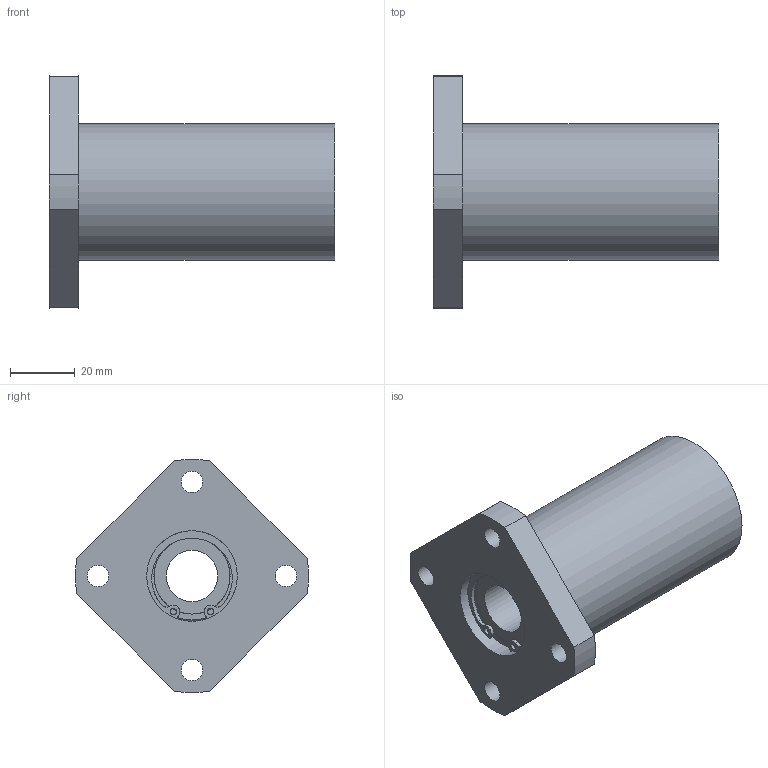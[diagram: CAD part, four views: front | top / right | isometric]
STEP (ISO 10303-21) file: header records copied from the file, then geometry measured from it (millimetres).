
FILE_DESCRIPTION((''),'2;1');
FILE_NAME('C:\Documents and Settings\土屋\My Documents\土屋移動用フォルダ\製品 (図面)\カタログ用3D\変換ファイル\OZAK_3D-CAD(STEP形式)\Part1.-Linear Bearings_ﾘﾆｱﾍﾞｱﾘﾝｸﾞ\09_Maintenance Free_ﾒｲﾝﾃﾅﾝｽﾌﾘｰ\L2017-09-21T17:47:42','2017-09-21T17:47:42',('y'),(''),'Autodesk Inventor 11','Autodesk Inventor 11','');
FILE_SCHEMA(('AUTOMOTIVE_DESIGN { 1 0 10303 214 1 1 1 1 }'));
Length unit declared in the file: millimetre
Products named in the file (1): LFWK16MF
Bounding box: 88 x 71.91 x 71.91 mm (x, y, z)
Volume: 116154.1 mm3; surface area: 24938.4 mm2
Topology: 1 solids, 3 shells, 71 faces, 188 edges, 118 vertices
Faces by surface type: plane 30, cylinder 25, bspline 14, torus 2
Full cylindrical faces by diameter (mm): 2 x2, 6.647 x4, 16 x1, 23.5 x2, 26.6 x2, 28 x4, 42 x1
Entity records: 2140 total; most frequent: CARTESIAN_POINT 464, DIRECTION 372, ORIENTED_EDGE 300, AXIS2_PLACEMENT_3D 164, EDGE_CURVE 150, EDGE_LOOP 114, CIRCLE 106, VERTEX_POINT 102
